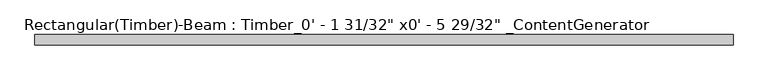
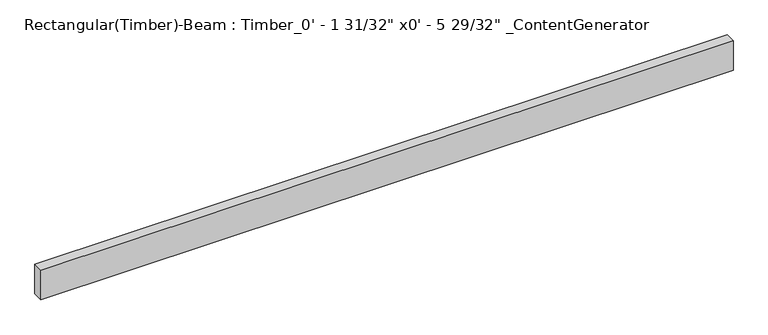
"""IFC4 building model written with IfcOpenShell, lengths in millimetres: beam geometry."""

from ifc_helpers import new_model, si_unit, frame, origin, place, context, project, spatial, polyline, outline, extrude, source, transform, mapped, element, save


def beam_c94f25b3(model_context):
    return source(origin(), model_context, "Body", "SweptSolid", [
        extrude(outline(polyline([(1677.7284875, 25.4), (1677.7284875, -25.4), (-1703.1284875, -25.4), (-1703.1284875, 25.4), (1677.7284875, 25.4)])), frame((0.0, 0.0, -76.2), z_axis=(0.0, 0.0, 1.0), x_axis=(1.0, 0.0, 0.0)), (0.0, 0.0, 1.0), 152.4),
    ])


if __name__ == "__main__":
    model = new_model("IFC4")
    model_context = context("Model", 3, world=origin())
    ifc_project = project(units=[si_unit("LENGTHUNIT", "METRE", prefix="MILLI")], contexts=[model_context])
    site = spatial("IfcSite", under=ifc_project)
    building = spatial("IfcBuilding", under=site)
    placement = place(None, origin())
    beam_shape = beam_c94f25b3(model_context)
    element("IfcBeam", 1, ObjectType="Rectangular(Timber)-Beam : Timber_0' - 1 31/32\" x0' - 5 29/32\" _ContentGenerator", at=placement, inside=building, context=model_context, shape_type="MappedRepresentation", body=[
        mapped(beam_shape, transform((0.0, 0.0, 0.0), x_axis=(1.0, 0.0, 0.0), y_axis=(0.0, 1.0, 0.0), z_axis=(0.0, 0.0, 1.0))),
    ])
    save(model, "model.ifc")
